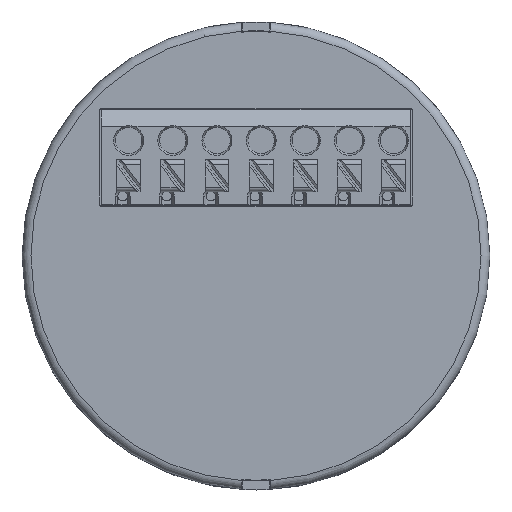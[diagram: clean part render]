
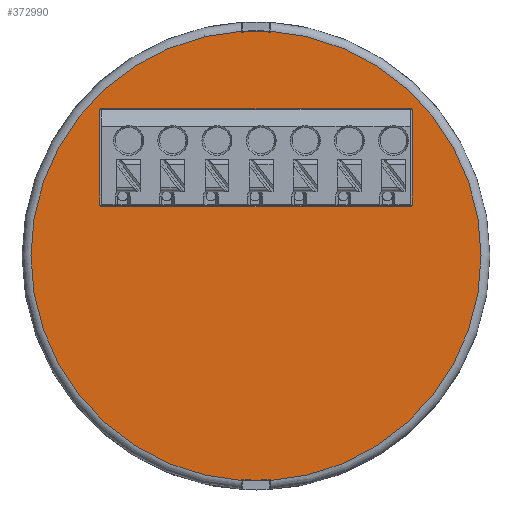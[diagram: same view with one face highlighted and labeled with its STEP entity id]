
A CAD part, top view. The second image highlights one B-rep face of the part: STEP entity #372990.
In plain terms, the highlighted planar face has unit normal (0, 0, 1).
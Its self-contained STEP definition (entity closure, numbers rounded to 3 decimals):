
#326000=CARTESIAN_POINT('',(1.6,-25.35,18.6));
#326010=VERTEX_POINT('',#326000);
#326040=CARTESIAN_POINT('',(1.6,18.434,18.6));
#326050=DIRECTION('',(0.,1.,0.));
#326060=VECTOR('',#326050,1.);
#326070=LINE('',#326040,#326060);
#326080=CARTESIAN_POINT('',(1.6,-25.45,18.6));
#326090=VERTEX_POINT('',#326080);
#326100=EDGE_CURVE('',#326090,#326010,#326070,.T.);
#370940=CARTESIAN_POINT('',(-17.5,5.557,18.6));
#370950=VERTEX_POINT('',#370940);
#371030=CARTESIAN_POINT('',(17.5,5.557,18.6));
#371040=VERTEX_POINT('',#371030);
#371070=CARTESIAN_POINT('',(-18.329,5.557,18.6));
#371080=DIRECTION('',(-1.,0.,0.));
#371090=VECTOR('',#371080,1.);
#371100=LINE('',#371070,#371090);
#371110=EDGE_CURVE('',#371040,#370950,#371100,.T.);
#371210=CARTESIAN_POINT('',(-17.7,18.434,18.6));
#371220=DIRECTION('',(0.,1.,0.));
#371230=VECTOR('',#371220,1.);
#371240=LINE('',#371210,#371230);
#371250=CARTESIAN_POINT('',(-17.7,5.757,18.6));
#371260=VERTEX_POINT('',#371250);
#371270=CARTESIAN_POINT('',(-17.7,16.457,18.6));
#371280=VERTEX_POINT('',#371270);
#371290=EDGE_CURVE('',#371260,#371280,#371240,.T.);
#371520=CARTESIAN_POINT('',(-18.329,16.657,18.6));
#371530=DIRECTION('',(1.,0.,0.));
#371540=VECTOR('',#371530,1.);
#371550=LINE('',#371520,#371540);
#371560=CARTESIAN_POINT('',(-17.5,16.657,18.6));
#371570=VERTEX_POINT('',#371560);
#371580=CARTESIAN_POINT('',(17.5,16.657,18.6));
#371590=VERTEX_POINT('',#371580);
#371600=EDGE_CURVE('',#371570,#371590,#371550,.T.);
#371850=CARTESIAN_POINT('',(17.5,16.457,18.6));
#371860=DIRECTION('',(0.,0.,1.));
#371870=DIRECTION('',(1.,0.,0.));
#371880=AXIS2_PLACEMENT_3D('',#371850,#371860,#371870);
#371890=CIRCLE('',#371880,0.2);
#371900=CARTESIAN_POINT('',(17.7,16.457,18.6));
#371910=VERTEX_POINT('',#371900);
#371920=EDGE_CURVE('',#371910,#371590,#371890,.T.);
#372030=CARTESIAN_POINT('',(-18.329,18.434,18.6));
#372040=DIRECTION('',(0.,0.,1.));
#372050=DIRECTION('',(1.,0.,0.));
#372060=AXIS2_PLACEMENT_3D('',#372030,#372040,#372050);
#372070=PLANE('',#372060);
#372080=ORIENTED_EDGE('',*,*,#371920,.F.);
#372090=ORIENTED_EDGE('',*,*,#371600,.T.);
#372100=CARTESIAN_POINT('',(-17.5,16.457,18.6));
#372110=DIRECTION('',(0.,0.,1.));
#372120=DIRECTION('',(1.,0.,0.));
#372130=AXIS2_PLACEMENT_3D('',#372100,#372110,#372120);
#372140=CIRCLE('',#372130,0.2);
#372150=EDGE_CURVE('',#371570,#371280,#372140,.T.);
#372160=ORIENTED_EDGE('',*,*,#372150,.F.);
#372170=ORIENTED_EDGE('',*,*,#371290,.T.);
#372180=CARTESIAN_POINT('',(-17.5,5.757,18.6));
#372190=DIRECTION('',(0.,0.,1.));
#372200=DIRECTION('',(1.,0.,0.));
#372210=AXIS2_PLACEMENT_3D('',#372180,#372190,#372200);
#372220=CIRCLE('',#372210,0.2);
#372230=EDGE_CURVE('',#371260,#370950,#372220,.T.);
#372240=ORIENTED_EDGE('',*,*,#372230,.F.);
#372250=ORIENTED_EDGE('',*,*,#371110,.T.);
#372260=CARTESIAN_POINT('',(17.5,5.757,18.6));
#372270=DIRECTION('',(0.,0.,-1.));
#372280=DIRECTION('',(-1.,0.,0.));
#372290=AXIS2_PLACEMENT_3D('',#372260,#372270,#372280);
#372300=CIRCLE('',#372290,0.2);
#372310=CARTESIAN_POINT('',(17.7,5.757,18.6));
#372320=VERTEX_POINT('',#372310);
#372330=EDGE_CURVE('',#372320,#371040,#372300,.T.);
#372340=ORIENTED_EDGE('',*,*,#372330,.T.);
#372350=CARTESIAN_POINT('',(17.7,18.434,18.6));
#372360=DIRECTION('',(0.,-1.,0.));
#372370=VECTOR('',#372360,1.);
#372380=LINE('',#372350,#372370);
#372390=EDGE_CURVE('',#371910,#372320,#372380,.T.);
#372400=ORIENTED_EDGE('',*,*,#372390,.T.);
#372410=EDGE_LOOP('',(#372400,#372340,#372250,#372240,#372170,#372160,
#372090,#372080));
#372420=FACE_BOUND('',#372410,.T.);
#372430=CARTESIAN_POINT('',(-1.6,18.434,18.6));
#372440=DIRECTION('',(0.,-1.,0.));
#372450=VECTOR('',#372440,1.);
#372460=LINE('',#372430,#372450);
#372470=CARTESIAN_POINT('',(-1.6,25.45,18.6));
#372480=VERTEX_POINT('',#372470);
#372490=CARTESIAN_POINT('',(-1.6,25.35,18.6));
#372500=VERTEX_POINT('',#372490);
#372510=EDGE_CURVE('',#372480,#372500,#372460,.T.);
#372520=ORIENTED_EDGE('',*,*,#372510,.F.);
#372530=CARTESIAN_POINT('',(0.,0.,18.6));
#372540=DIRECTION('',(0.,0.,1.));
#372550=DIRECTION('',(1.,0.,0.));
#372560=AXIS2_PLACEMENT_3D('',#372530,#372540,#372550);
#372570=CIRCLE('',#372560,25.4);
#372580=CARTESIAN_POINT('',(1.6,25.35,18.6));
#372590=VERTEX_POINT('',#372580);
#372600=EDGE_CURVE('',#372590,#372500,#372570,.T.);
#372610=ORIENTED_EDGE('',*,*,#372600,.T.);
#372620=CARTESIAN_POINT('',(1.6,18.434,18.6));
#372630=DIRECTION('',(0.,-1.,0.));
#372640=VECTOR('',#372630,1.);
#372650=LINE('',#372620,#372640);
#372660=CARTESIAN_POINT('',(1.6,25.45,18.6));
#372670=VERTEX_POINT('',#372660);
#372680=EDGE_CURVE('',#372670,#372590,#372650,.T.);
#372690=ORIENTED_EDGE('',*,*,#372680,.T.);
#372700=CARTESIAN_POINT('',(0.,0.,18.6));
#372710=DIRECTION('',(0.,0.,1.));
#372720=DIRECTION('',(1.,0.,0.));
#372730=AXIS2_PLACEMENT_3D('',#372700,#372710,#372720);
#372740=CIRCLE('',#372730,25.5);
#372750=EDGE_CURVE('',#326090,#372670,#372740,.T.);
#372760=ORIENTED_EDGE('',*,*,#372750,.T.);
#372770=ORIENTED_EDGE('',*,*,#326100,.F.);
#372780=CARTESIAN_POINT('',(-1.6,-25.35,18.6));
#372790=VERTEX_POINT('',#372780);
#372800=EDGE_CURVE('',#372790,#326010,#372570,.T.);
#372810=ORIENTED_EDGE('',*,*,#372800,.T.);
#372820=CARTESIAN_POINT('',(-1.6,18.434,18.6));
#372830=DIRECTION('',(0.,-1.,0.));
#372840=VECTOR('',#372830,1.);
#372850=LINE('',#372820,#372840);
#372860=CARTESIAN_POINT('',(-1.6,-25.45,18.6));
#372870=VERTEX_POINT('',#372860);
#372880=EDGE_CURVE('',#372790,#372870,#372850,.T.);
#372890=ORIENTED_EDGE('',*,*,#372880,.F.);
#372900=CARTESIAN_POINT('',(0.,0.,18.6));
#372910=DIRECTION('',(0.,0.,1.));
#372920=DIRECTION('',(1.,0.,0.));
#372930=AXIS2_PLACEMENT_3D('',#372900,#372910,#372920);
#372940=CIRCLE('',#372930,25.5);
#372950=EDGE_CURVE('',#372480,#372870,#372940,.T.);
#372960=ORIENTED_EDGE('',*,*,#372950,.T.);
#372970=EDGE_LOOP('',(#372960,#372890,#372810,#372770,#372760,#372690,
#372610,#372520));
#372980=FACE_OUTER_BOUND('',#372970,.T.);
#372990=ADVANCED_FACE('',(#372420,#372980),#372070,.T.);
